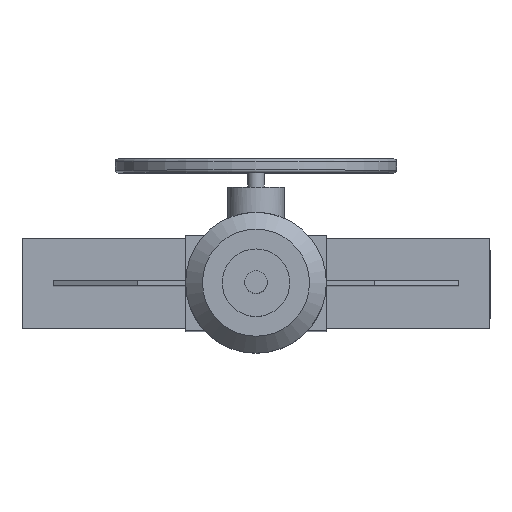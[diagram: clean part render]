
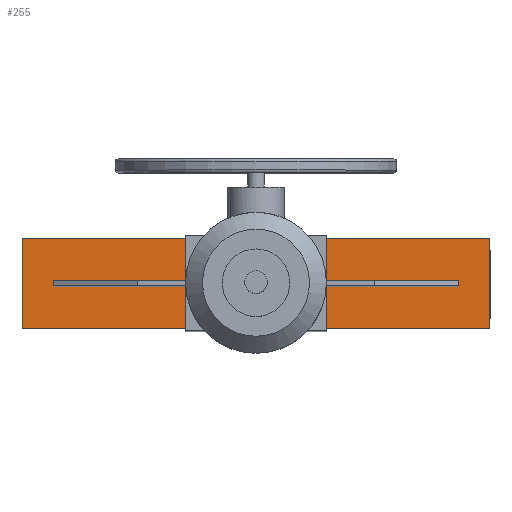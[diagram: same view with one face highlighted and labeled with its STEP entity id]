
A CAD part, top view. The second image highlights one B-rep face of the part: STEP entity #255.
In plain terms, the highlighted planar face has unit normal (0, 0, 1).
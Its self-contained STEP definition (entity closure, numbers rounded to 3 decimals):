
#255=ADVANCED_FACE('',(#2558,#2560),#2562,.T.);
#2558=FACE_BOUND('',#2559,.T.);
#2559=EDGE_LOOP('',(#4502,#4503,#4504,#4505,#4506,#4507,#4508,#4509));
#2560=FACE_BOUND('',#2561,.T.);
#2561=EDGE_LOOP('',(#4510,#4511,#4512,#4513));
#2562=PLANE('',#2563);
#2563=AXIS2_PLACEMENT_3D('',#2564,#2565,#2566);
#2564=CARTESIAN_POINT('',(0.,0.,700.));
#2565=DIRECTION('',(0.,0.,1.));
#2566=DIRECTION('',(1.,0.,0.));
#4502=ORIENTED_EDGE('',*,*,#5626,.F.);
#4503=ORIENTED_EDGE('',*,*,#5624,.T.);
#4504=ORIENTED_EDGE('',*,*,#5633,.T.);
#4505=ORIENTED_EDGE('',*,*,#5615,.T.);
#4506=ORIENTED_EDGE('',*,*,#5629,.F.);
#4507=ORIENTED_EDGE('',*,*,#5619,.T.);
#4508=ORIENTED_EDGE('',*,*,#5634,.T.);
#4509=ORIENTED_EDGE('',*,*,#5620,.T.);
#4510=ORIENTED_EDGE('',*,*,#5635,.F.);
#4511=ORIENTED_EDGE('',*,*,#5636,.F.);
#4512=ORIENTED_EDGE('',*,*,#5637,.F.);
#4513=ORIENTED_EDGE('',*,*,#5638,.F.);
#5615=EDGE_CURVE('',#6233,#6201,#6234,.T.);
#5619=EDGE_CURVE('',#6217,#6239,#6241,.T.);
#5620=EDGE_CURVE('',#6242,#6223,#6243,.T.);
#5624=EDGE_CURVE('',#6207,#6248,#6250,.T.);
#5626=EDGE_CURVE('',#6207,#6223,#6252,.T.);
#5629=EDGE_CURVE('',#6217,#6201,#6256,.T.);
#5633=EDGE_CURVE('',#6248,#6233,#6263,.T.);
#5634=EDGE_CURVE('',#6239,#6242,#6264,.T.);
#5635=EDGE_CURVE('',#6265,#6266,#6267,.T.);
#5636=EDGE_CURVE('',#6268,#6265,#6269,.F.);
#5637=EDGE_CURVE('',#6270,#6268,#6271,.T.);
#5638=EDGE_CURVE('',#6266,#6270,#6272,.T.);
#6201=VERTEX_POINT('',#7261);
#6207=VERTEX_POINT('',#7273);
#6217=VERTEX_POINT('',#7295);
#6223=VERTEX_POINT('',#7307);
#6233=VERTEX_POINT('',#7331);
#6234=LINE('',#7332,#7333);
#6239=VERTEX_POINT('',#7343);
#6241=LINE('',#7347,#7348);
#6242=VERTEX_POINT('',#7350);
#6243=LINE('',#7351,#7352);
#6248=VERTEX_POINT('',#7362);
#6250=LINE('',#7366,#7367);
#6252=LINE('',#7372,#7373);
#6256=LINE('',#7383,#7384);
#6263=LINE('',#7551,#7552);
#6264=LINE('',#7554,#7555);
#6265=VERTEX_POINT('',#7557);
#6266=VERTEX_POINT('',#7558);
#6267=LINE('',#7559,#7560);
#6268=VERTEX_POINT('',#7562);
#6269=LINE('',#7563,#7564);
#6270=VERTEX_POINT('',#7566);
#6271=LINE('',#7567,#7568);
#6272=LINE('',#7570,#7571);
#7261=CARTESIAN_POINT('',(125.,80.,700.));
#7273=CARTESIAN_POINT('',(125.,-80.,700.));
#7295=CARTESIAN_POINT('',(-125.,80.,700.));
#7307=CARTESIAN_POINT('',(-125.,-80.,700.));
#7331=CARTESIAN_POINT('',(415.,80.,700.));
#7332=CARTESIAN_POINT('',(415.,80.,700.));
#7333=VECTOR('',#7334,1.);
#7334=DIRECTION('',(-1.,0.,0.));
#7343=CARTESIAN_POINT('',(-415.,80.,700.));
#7347=CARTESIAN_POINT('',(-125.,80.,700.));
#7348=VECTOR('',#7349,1.);
#7349=DIRECTION('',(-1.,0.,0.));
#7350=CARTESIAN_POINT('',(-415.,-80.,700.));
#7351=CARTESIAN_POINT('',(-415.,-80.,700.));
#7352=VECTOR('',#7353,1.);
#7353=DIRECTION('',(1.,0.,0.));
#7362=CARTESIAN_POINT('',(415.,-80.,700.));
#7366=CARTESIAN_POINT('',(125.,-80.,700.));
#7367=VECTOR('',#7368,1.);
#7368=DIRECTION('',(1.,0.,0.));
#7372=CARTESIAN_POINT('',(125.,-80.,700.));
#7373=VECTOR('',#7374,1.);
#7374=DIRECTION('',(-1.,0.,0.));
#7383=CARTESIAN_POINT('',(-125.,80.,700.));
#7384=VECTOR('',#7385,1.);
#7385=DIRECTION('',(1.,0.,0.));
#7551=CARTESIAN_POINT('',(415.,-80.,700.));
#7552=VECTOR('',#7553,1.);
#7553=DIRECTION('',(0.,1.,0.));
#7554=CARTESIAN_POINT('',(-415.,80.,700.));
#7555=VECTOR('',#7556,1.);
#7556=DIRECTION('',(0.,-1.,0.));
#7557=CARTESIAN_POINT('',(-360.,5.,700.));
#7558=CARTESIAN_POINT('',(-360.,-5.,700.));
#7559=CARTESIAN_POINT('',(-360.,5.,700.));
#7560=VECTOR('',#7561,1.);
#7561=DIRECTION('',(0.,-1.,0.));
#7562=CARTESIAN_POINT('',(360.,5.,700.));
#7563=CARTESIAN_POINT('',(-360.,5.,700.));
#7564=VECTOR('',#7565,1.);
#7565=DIRECTION('',(1.,0.,0.));
#7566=CARTESIAN_POINT('',(360.,-5.,700.));
#7567=CARTESIAN_POINT('',(360.,-5.,700.));
#7568=VECTOR('',#7569,1.);
#7569=DIRECTION('',(0.,1.,0.));
#7570=CARTESIAN_POINT('',(-360.,-5.,700.));
#7571=VECTOR('',#7572,1.);
#7572=DIRECTION('',(1.,0.,0.));
